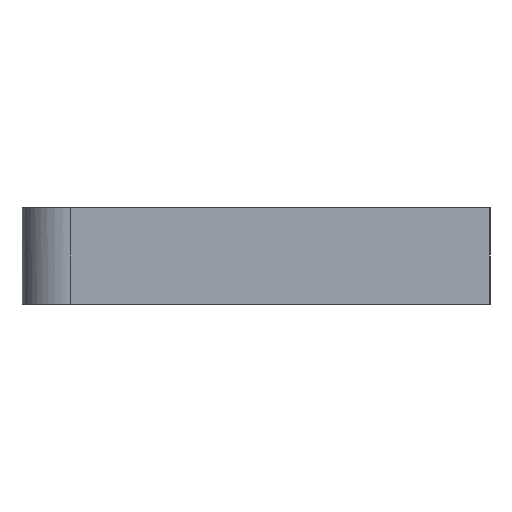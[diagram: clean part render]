
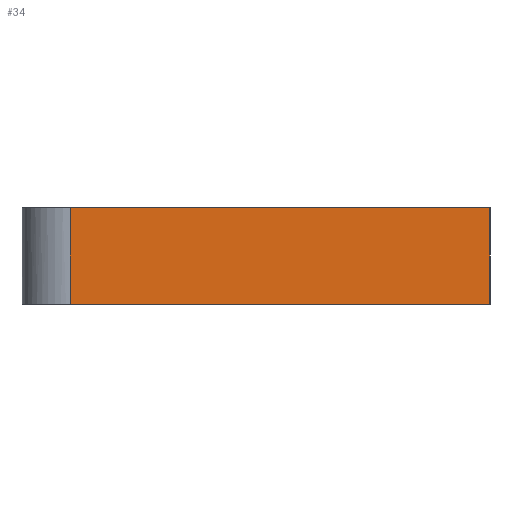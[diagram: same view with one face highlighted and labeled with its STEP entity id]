
A CAD part, left-side view. The second image highlights one B-rep face of the part: STEP entity #34.
In plain terms, the highlighted free-form (B-spline) face has degree [2, 1] with [3, 2] control points.
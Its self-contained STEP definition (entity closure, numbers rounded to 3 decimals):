
#34=ADVANCED_FACE('',(#50),#582,.T.);
#50=FACE_OUTER_BOUND('',#66,.T.);
#66=EDGE_LOOP('',(#96,#97,#98,#99));
#96=ORIENTED_EDGE('',*,*,#445,.T.);
#97=ORIENTED_EDGE('',*,*,#446,.T.);
#98=ORIENTED_EDGE('',*,*,#447,.T.);
#99=ORIENTED_EDGE('',*,*,#443,.F.);
#177=PCURVE('',#581,#261);
#180=PCURVE('',#582,#264);
#181=PCURVE('',#582,#265);
#182=PCURVE('',#582,#266);
#183=PCURVE('',#582,#267);
#187=PCURVE('',#583,#271);
#215=PCURVE('',#578,#299);
#228=PCURVE('',#579,#312);
#261=DEFINITIONAL_REPRESENTATION('',(#345),#1207);
#264=DEFINITIONAL_REPRESENTATION('',(#348),#1207);
#265=DEFINITIONAL_REPRESENTATION('',(#349),#1207);
#266=DEFINITIONAL_REPRESENTATION('',(#350),#1207);
#267=DEFINITIONAL_REPRESENTATION('',(#351),#1207);
#271=DEFINITIONAL_REPRESENTATION('',(#355),#1207);
#299=DEFINITIONAL_REPRESENTATION('',(#517),#1207);
#312=DEFINITIONAL_REPRESENTATION('',(#534),#1207);
#345=B_SPLINE_CURVE_WITH_KNOTS('',1,(#859,#860),.UNSPECIFIED.,.F.,.F.,(2,
2),(0.,6.),.UNSPECIFIED.);
#348=B_SPLINE_CURVE_WITH_KNOTS('',1,(#871,#872),.UNSPECIFIED.,.F.,.F.,(2,
2),(224.712,243.54),.UNSPECIFIED.);
#349=B_SPLINE_CURVE_WITH_KNOTS('',1,(#875,#876),.UNSPECIFIED.,.F.,.F.,(2,
2),(0.,6.),.UNSPECIFIED.);
#350=B_SPLINE_CURVE_WITH_KNOTS('',1,(#880,#881),.UNSPECIFIED.,.F.,.F.,(2,
2),(-243.54,-224.712),.UNSPECIFIED.);
#351=B_SPLINE_CURVE_WITH_KNOTS('',1,(#882,#883),.UNSPECIFIED.,.F.,.F.,(2,
2),(0.,6.),.UNSPECIFIED.);
#355=B_SPLINE_CURVE_WITH_KNOTS('',1,(#898,#899),.UNSPECIFIED.,.F.,.F.,(2,
2),(0.,6.),.UNSPECIFIED.);
#401=SURFACE_CURVE('',#485,(#177,#183),.PCURVE_S1.);
#403=SURFACE_CURVE('',#487,(#180,#215),.PCURVE_S1.);
#404=SURFACE_CURVE('',#488,(#181,#187),.PCURVE_S1.);
#405=SURFACE_CURVE('',#489,(#182,#228),.PCURVE_S1.);
#443=EDGE_CURVE('',#554,#555,#401,.T.);
#445=EDGE_CURVE('',#554,#556,#403,.T.);
#446=EDGE_CURVE('',#556,#557,#404,.T.);
#447=EDGE_CURVE('',#557,#555,#405,.T.);
#485=(
BOUNDED_CURVE()
B_SPLINE_CURVE(1,(#857,#858),.UNSPECIFIED.,.F.,.F.)
B_SPLINE_CURVE_WITH_KNOTS((2,2),(0.,6.),.UNSPECIFIED.)
CURVE()
GEOMETRIC_REPRESENTATION_ITEM()
RATIONAL_B_SPLINE_CURVE((1.,1.))
REPRESENTATION_ITEM('')
);
#487=(
BOUNDED_CURVE()
B_SPLINE_CURVE(2,(#868,#869,#870),.UNSPECIFIED.,.F.,.F.)
B_SPLINE_CURVE_WITH_KNOTS((3,3),(224.712,243.54),
 .UNSPECIFIED.)
CURVE()
GEOMETRIC_REPRESENTATION_ITEM()
RATIONAL_B_SPLINE_CURVE((1.,1.,1.))
REPRESENTATION_ITEM('')
);
#488=(
BOUNDED_CURVE()
B_SPLINE_CURVE(1,(#873,#874),.UNSPECIFIED.,.F.,.F.)
B_SPLINE_CURVE_WITH_KNOTS((2,2),(0.,6.),.UNSPECIFIED.)
CURVE()
GEOMETRIC_REPRESENTATION_ITEM()
RATIONAL_B_SPLINE_CURVE((1.,1.))
REPRESENTATION_ITEM('')
);
#489=(
BOUNDED_CURVE()
B_SPLINE_CURVE(2,(#877,#878,#879),.UNSPECIFIED.,.F.,.F.)
B_SPLINE_CURVE_WITH_KNOTS((3,3),(-243.54,-224.712),
 .UNSPECIFIED.)
CURVE()
GEOMETRIC_REPRESENTATION_ITEM()
RATIONAL_B_SPLINE_CURVE((1.,1.,1.))
REPRESENTATION_ITEM('')
);
#517=(
BOUNDED_CURVE()
B_SPLINE_CURVE(2,(#1027,#1028,#1029),.UNSPECIFIED.,.F.,.F.)
B_SPLINE_CURVE_WITH_KNOTS((3,3),(224.712,243.54),
 .UNSPECIFIED.)
CURVE()
GEOMETRIC_REPRESENTATION_ITEM()
RATIONAL_B_SPLINE_CURVE((1.,1.,1.))
REPRESENTATION_ITEM('')
);
#534=(
BOUNDED_CURVE()
B_SPLINE_CURVE(2,(#1102,#1103,#1104),.UNSPECIFIED.,.F.,.F.)
B_SPLINE_CURVE_WITH_KNOTS((3,3),(-243.54,-224.712),
 .UNSPECIFIED.)
CURVE()
GEOMETRIC_REPRESENTATION_ITEM()
RATIONAL_B_SPLINE_CURVE((1.,1.,1.))
REPRESENTATION_ITEM('')
);
#554=VERTEX_POINT('',#810);
#555=VERTEX_POINT('',#811);
#556=VERTEX_POINT('',#812);
#557=VERTEX_POINT('',#813);
#578=PLANE('',#614);
#579=PLANE('',#615);
#581=(
BOUNDED_SURFACE()
B_SPLINE_SURFACE(2,1,((#630,#631),(#632,#633),(#634,#635)),.UNSPECIFIED.,
 .F.,.F.,.F.)
B_SPLINE_SURFACE_WITH_KNOTS((3,3),(2,2),(220.,224.712),
(0.,6.),.UNSPECIFIED.)
GEOMETRIC_REPRESENTATION_ITEM()
RATIONAL_B_SPLINE_SURFACE(((1.,1.),(0.707,0.707),
(1.,1.)))
REPRESENTATION_ITEM('')
SURFACE()
);
#582=(
BOUNDED_SURFACE()
B_SPLINE_SURFACE(2,1,((#636,#637),(#638,#639),(#640,#641)),.UNSPECIFIED.,
 .F.,.F.,.F.)
B_SPLINE_SURFACE_WITH_KNOTS((3,3),(2,2),(224.712,243.54),
(0.,6.),.UNSPECIFIED.)
GEOMETRIC_REPRESENTATION_ITEM()
RATIONAL_B_SPLINE_SURFACE(((1.,1.),(1.,1.),(1.,1.)))
REPRESENTATION_ITEM('')
SURFACE()
);
#583=(
BOUNDED_SURFACE()
B_SPLINE_SURFACE(2,1,((#642,#643),(#644,#645),(#646,#647)),.UNSPECIFIED.,
 .F.,.F.,.F.)
B_SPLINE_SURFACE_WITH_KNOTS((3,3),(2,2),(243.54,283.54),
(0.,6.),.UNSPECIFIED.)
GEOMETRIC_REPRESENTATION_ITEM()
RATIONAL_B_SPLINE_SURFACE(((1.,1.),(1.,1.),(1.,1.)))
REPRESENTATION_ITEM('')
SURFACE()
);
#614=AXIS2_PLACEMENT_3D('',#732,#619,$);
#615=AXIS2_PLACEMENT_3D('',#733,#620,$);
#619=DIRECTION('',(0.,0.,-1.));
#620=DIRECTION('',(0.,0.,1.));
#630=CARTESIAN_POINT('',(-487.,102.,60.));
#631=CARTESIAN_POINT('',(-487.,102.,66.));
#632=CARTESIAN_POINT('',(-490.,102.,60.));
#633=CARTESIAN_POINT('',(-490.,102.,66.));
#634=CARTESIAN_POINT('',(-490.,99.,60.));
#635=CARTESIAN_POINT('',(-490.,99.,66.));
#636=CARTESIAN_POINT('',(-490.,99.,60.));
#637=CARTESIAN_POINT('',(-490.,99.,66.));
#638=CARTESIAN_POINT('',(-490.,86.,60.));
#639=CARTESIAN_POINT('',(-490.,86.,66.));
#640=CARTESIAN_POINT('',(-490.,73.,60.));
#641=CARTESIAN_POINT('',(-490.,73.,66.));
#642=CARTESIAN_POINT('',(-490.,73.,60.));
#643=CARTESIAN_POINT('',(-490.,73.,66.));
#644=CARTESIAN_POINT('',(-470.,73.,60.));
#645=CARTESIAN_POINT('',(-470.,73.,66.));
#646=CARTESIAN_POINT('',(-450.,73.,60.));
#647=CARTESIAN_POINT('',(-450.,73.,66.));
#732=CARTESIAN_POINT('',(-495.,69.375,60.));
#733=CARTESIAN_POINT('',(-495.,69.375,66.));
#810=CARTESIAN_POINT('',(-490.,99.,60.));
#811=CARTESIAN_POINT('',(-490.,99.,66.));
#812=CARTESIAN_POINT('',(-490.,73.,60.));
#813=CARTESIAN_POINT('',(-490.,73.,66.));
#857=CARTESIAN_POINT('',(-490.,99.,60.));
#858=CARTESIAN_POINT('',(-490.,99.,66.));
#859=CARTESIAN_POINT('',(224.712,0.));
#860=CARTESIAN_POINT('',(224.712,6.));
#868=CARTESIAN_POINT('',(-490.,99.,60.));
#869=CARTESIAN_POINT('',(-490.,86.,60.));
#870=CARTESIAN_POINT('',(-490.,73.,60.));
#871=CARTESIAN_POINT('',(224.712,0.));
#872=CARTESIAN_POINT('',(243.54,0.));
#873=CARTESIAN_POINT('',(-490.,73.,60.));
#874=CARTESIAN_POINT('',(-490.,73.,66.));
#875=CARTESIAN_POINT('',(243.54,0.));
#876=CARTESIAN_POINT('',(243.54,6.));
#877=CARTESIAN_POINT('',(-490.,73.,66.));
#878=CARTESIAN_POINT('',(-490.,86.,66.));
#879=CARTESIAN_POINT('',(-490.,99.,66.));
#880=CARTESIAN_POINT('',(243.54,6.));
#881=CARTESIAN_POINT('',(224.712,6.));
#882=CARTESIAN_POINT('',(224.712,0.));
#883=CARTESIAN_POINT('',(224.712,6.));
#898=CARTESIAN_POINT('',(243.54,0.));
#899=CARTESIAN_POINT('',(243.54,6.));
#1027=CARTESIAN_POINT('',(-3.,-37.));
#1028=CARTESIAN_POINT('',(-16.,-37.));
#1029=CARTESIAN_POINT('',(-29.,-37.));
#1102=CARTESIAN_POINT('',(-37.,-29.));
#1103=CARTESIAN_POINT('',(-37.,-16.));
#1104=CARTESIAN_POINT('',(-37.,-3.));
#1207=(
GEOMETRIC_REPRESENTATION_CONTEXT(2)
PARAMETRIC_REPRESENTATION_CONTEXT()
REPRESENTATION_CONTEXT('pspace','')
);
